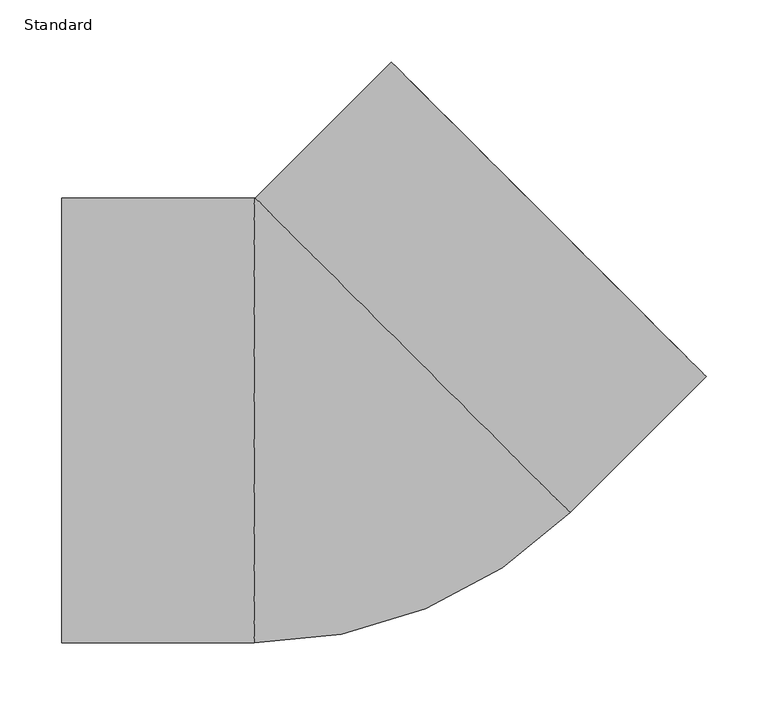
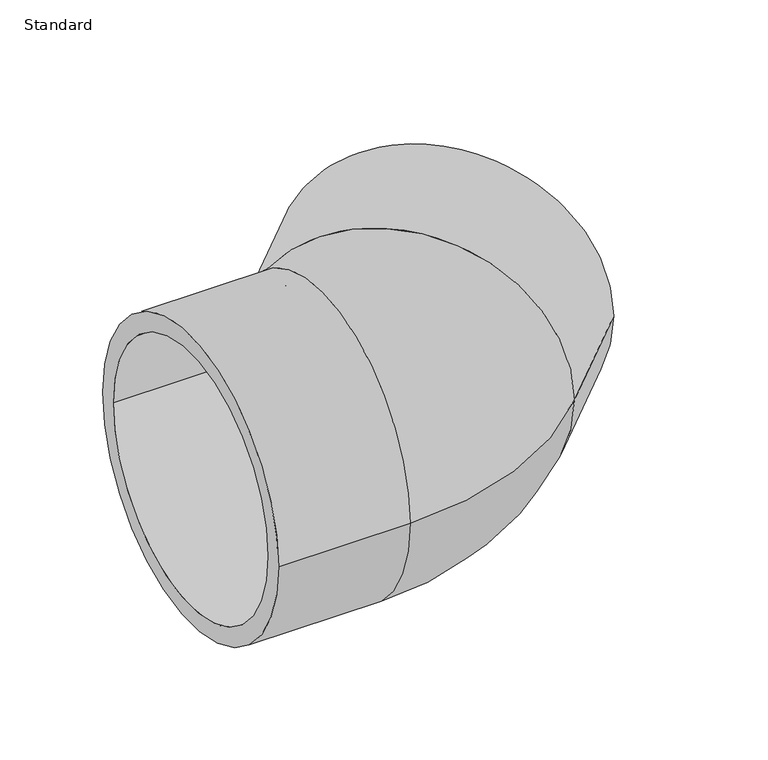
"""IFC4 building model written with IfcOpenShell, lengths in millimetres: pipe fitting geometry, Durapipe_PipeFitting_PVC_Elbow45deg : Standard."""

from ifc_helpers import new_model, si_unit, point, frame, origin, place, context, project, spatial, polyline, circle_curve, ellipse_curve, trimmed, source, transform, mapped, element, save
from ifc_brep_helpers import plane_surface, cylinder_surface, revolved_surface, advanced_brep


def standard_0e005561(model_context):
    return source(origin(), model_context, "Body", "AdvancedBrep", [
        advanced_brep(
        [(-230.0, -179.5, 0.0), (-230.0, 179.5, 0.0), (-230.0, -157.5, 0.0), (-230.0, 157.5, 0.0), (-74.8513344, -179.5, 0.0), (-74.8513344, 179.5, 0.0), (179.8535534, -73.9977811, 0.0), (-73.9977811, 179.8535534, 0.0), (289.5602269, 35.7088924, 0.0), (35.7088924, 289.5602269, 0.0), (51.2652416, 274.0038777, 0.0), (274.0038777, 51.2652416, 0.0), (-66.0, 157.5, 0.0), (-66.0, -157.5, 0.0), (-66.0, 0.0, 0.0), (-64.7002705, 158.0383656, 0.0), (46.6690476, 46.6690476, 0.0), (158.0383656, -64.7002705, 0.0)],
        [
            (0, 1, circle_curve(frame((-230.0, 0.0, 0.0), z_axis=(-1.0, 0.0, 0.0), x_axis=(0.0, 1.0, 0.0)), 179.5)),
            (1, 0, circle_curve(frame((-230.0, 0.0, 0.0), z_axis=(-1.0, 0.0, 0.0), x_axis=(0.0, 1.0, 0.0)), 179.5)),
            (2, 3, circle_curve(frame((-230.0, 0.0, 0.0), z_axis=(1.0, 0.0, 0.0), x_axis=(0.0, -1.0, 0.0)), 157.5)),
            (3, 2, circle_curve(frame((-230.0, 0.0, 0.0), z_axis=(1.0, 0.0, 0.0), x_axis=(0.0, -1.0, 0.0)), 157.5)),
            (0, 4),
            (4, 5, circle_curve(frame((-74.8513344, 0.0, 0.0), z_axis=(-1.0, 0.0, 0.0), x_axis=(0.0, 1.0, 0.0)), 179.5)),
            (5, 1),
            (5, 4, circle_curve(frame((-74.8513344, 0.0, 0.0), z_axis=(-1.0, 0.0, 0.0), x_axis=(0.0, 1.0, 0.0)), 179.5)),
            (4, 6, circle_curve(frame((-74.8513344, 180.7071068, 0.0), z_axis=(0.0, 0.0, 1.0), x_axis=(0.0, -1.0, 0.0)), 360.2071068)),
            (6, 7, circle_curve(frame((52.9278862, 52.9278862, 0.0), z_axis=(-0.7071067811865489, -0.7071067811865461, 0.0), x_axis=(-0.7071067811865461, 0.7071067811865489, 0.0)), 179.5)),
            (7, 5, circle_curve(frame((-74.8513344, 180.7071068, 0.0), z_axis=(0.0, 0.0, -1.0), x_axis=(0.0, -1.0, 0.0)), 1.2071068)),
            (7, 6, circle_curve(frame((52.9278862, 52.9278862, 0.0), z_axis=(-0.7071067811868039, -0.7071067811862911, 0.0), x_axis=(-0.7071067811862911, 0.7071067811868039, 0.0)), 179.5)),
            (8, 9, circle_curve(frame((162.6345597, 162.6345597, 0.0), z_axis=(0.7071067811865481, 0.707106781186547, 0.0), x_axis=(-0.707106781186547, 0.7071067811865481, 0.0)), 179.5)),
            (9, 8, circle_curve(frame((162.6345597, 162.6345597, 0.0), z_axis=(0.7071067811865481, 0.707106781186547, 0.0), x_axis=(-0.707106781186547, 0.7071067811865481, 0.0)), 179.5)),
            (10, 11, circle_curve(frame((162.6345597, 162.6345597, 0.0), z_axis=(-0.707106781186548, -0.707106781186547, 0.0), x_axis=(0.707106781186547, -0.707106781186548, 0.0)), 157.5)),
            (11, 10, circle_curve(frame((162.6345597, 162.6345597, 0.0), z_axis=(-0.707106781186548, -0.707106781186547, 0.0), x_axis=(0.707106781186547, -0.707106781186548, 0.0)), 157.5)),
            (6, 8),
            (9, 7),
            (12, 3),
            (2, 13),
            (13, 12, circle_curve(frame((-66.0, 0.0, 0.0), z_axis=(1.0, 0.0, 0.0), x_axis=(0.0, -1.0, 0.0)), 157.5)),
            (12, 13, circle_curve(frame((-66.0, 0.0, 0.0), z_axis=(1.0, 0.0, 0.0), x_axis=(0.0, -1.0, 0.0)), 157.5)),
            (13, 14),
            (14, 12),
            (15, 16),
            (16, 17),
            (17, 15, circle_curve(frame((46.6690476, 46.6690476, 0.0), z_axis=(0.707106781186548, 0.707106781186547, 0.0), x_axis=(0.707106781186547, -0.707106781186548, 0.0)), 157.5)),
            (15, 17, circle_curve(frame((46.6690476, 46.6690476, 0.0), z_axis=(0.707106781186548, 0.707106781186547, 0.0), x_axis=(0.707106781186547, -0.707106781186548, 0.0)), 157.5)),
            (17, 11),
            (10, 15),
        ],
        [
            plane_surface(frame((-230.0, 0.0, 0.0), z_axis=(-1.0, 0.0, 0.0), x_axis=(0.0, 0.0, 1.0))),
            cylinder_surface(frame((-230.0, 0.0, 0.0), z_axis=(-1.0, 0.0, 0.0), x_axis=(0.0, 1.0, 0.0)), 179.5),
            revolved_surface(trimmed(ellipse_curve(frame((-74.8513344, 0.0, 0.0), z_axis=(-1.0, 0.0, 0.0), x_axis=(0.0, 1.0, 0.0)), 179.5, 179.5), [point((-74.8513344, -179.5, 0.0))], [point((-74.8513344, 179.5, 0.0))], True, "CARTESIAN"), (-74.8513344, 180.7071068, 0.0), (0.0, 0.0, 1.0)),
            revolved_surface(trimmed(ellipse_curve(frame((-74.8513344, 0.0, 0.0), z_axis=(-1.0, 0.0, 0.0), x_axis=(0.0, 1.0, 0.0)), 179.5, 179.5), [point((-74.8513344, 179.5, 0.0))], [point((-74.8513344, -179.5, 0.0))], True, "CARTESIAN"), (-74.8513344, 180.7071068, 0.0), (0.0, 0.0, 1.0)),
            plane_surface(frame((162.6345597, 162.6345597, 0.0), z_axis=(0.7071067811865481, 0.707106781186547, 0.0), x_axis=(0.0, 0.0, 1.0))),
            cylinder_surface(frame((52.9278862, 52.9278862, 0.0), z_axis=(-0.7071067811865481, -0.707106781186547, 0.0), x_axis=(-0.707106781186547, 0.7071067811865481, 0.0)), 179.5),
            revolved_surface(polyline([(-66.0, -157.5, 0.0), (-230.0, -157.5, 0.0)]), (2000.0, 0.0, 0.0), (1.0, 0.0, 0.0)),
            plane_surface(frame((-66.0, 0.0, 0.0), z_axis=(-1.0, 0.0, 0.0), x_axis=(0.0, -1.0, 0.0))),
            plane_surface(frame((46.6690476, 46.6690476, 0.0), z_axis=(0.707106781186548, 0.707106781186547, 0.0), x_axis=(0.707106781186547, -0.707106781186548, 0.0))),
            revolved_surface(polyline([(274.0038777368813, 51.26524166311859, 0.0), (158.0383655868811, -64.70027048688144, 0.0)]), (0.0, 0.0, 0.0), (0.707106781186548, 0.707106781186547, 0.0)),
        ],
        [
            (0, [[1, 2], [3, 4]]),
            (1, [[-1, 5, 6, 7]]),
            (1, [[-2, -7, 8, -5]]),
            (2, [[-6, 9, 10, 11]]),
            (3, [[-8, -11, 12, -9]]),
            (4, [[13, 14], [15, 16]]),
            (5, [[-10, 17, -14, 18]]),
            (5, [[-12, -18, -13, -17]]),
            (6, [[19, -3, 20, 21]]),
            (6, [[-19, 22, -20, -4]]),
            (7, [[-21, 23, 24]]),
            (7, [[-22, -24, -23]]),
            (8, [[25, 26, 27]]),
            (8, [[-25, 28, -26]]),
            (9, [[-27, 29, -15, 30]]),
            (9, [[-28, -30, -16, -29]]),
        ],
    ),
    ])


if __name__ == "__main__":
    model = new_model("IFC4")
    model_context = context("Model", 3, world=origin())
    ifc_project = project(units=[si_unit("LENGTHUNIT", "METRE", prefix="MILLI")], contexts=[model_context])
    site = spatial("IfcSite", under=ifc_project)
    building = spatial("IfcBuilding", under=site)
    placement = place(None, origin())
    standard_shape = standard_0e005561(model_context)
    element("IfcPipeFitting", 1, ObjectType="Durapipe_PipeFitting_PVC_Elbow45deg : Standard", at=placement, inside=building, context=model_context, shape_type="MappedRepresentation", body=[
        mapped(standard_shape, transform((0.0, 0.0, 0.0), x_axis=(1.0, 0.0, 0.0), y_axis=(0.0, 1.0, 0.0), z_axis=(0.0, 0.0, 1.0))),
    ])
    save(model, "model.ifc")
